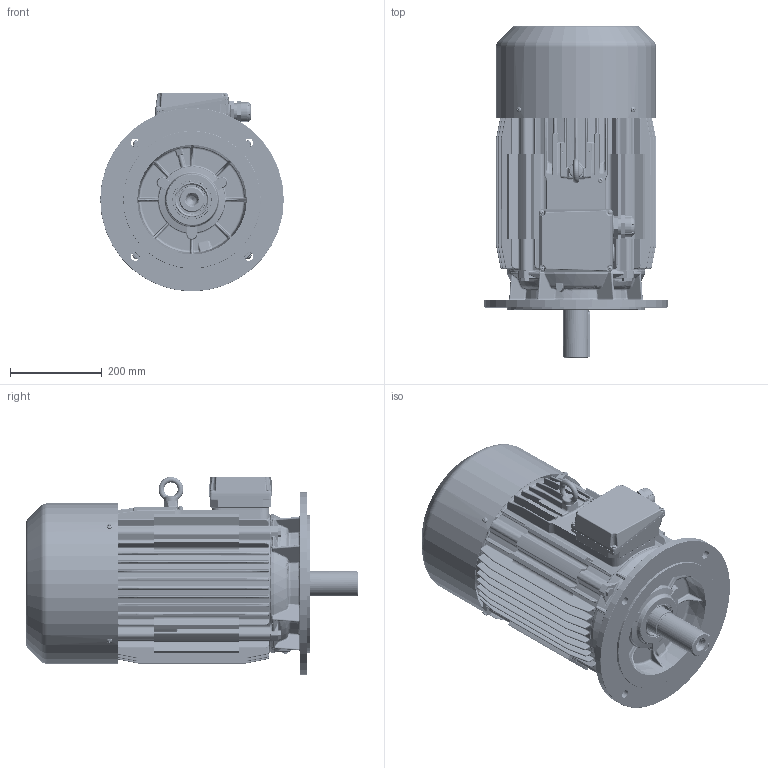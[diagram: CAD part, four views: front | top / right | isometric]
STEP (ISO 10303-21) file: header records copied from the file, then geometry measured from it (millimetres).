
FILE_DESCRIPTION(/* description */ ('Unknown'),/* implementation_level */ '2;1');
FILE_NAME(/* name */ 'S-218-01-2021',/* time_stamp */ '2021-07-15T09:29:33+02:00',/* author */ ('Unknown'),/* organization */ ('Unknown'),/* preprocessor_version */ 'ST-DEVELOPER v16.7',/* originating_system */ 'DEX',/* authorisation */ $);
FILE_SCHEMA (('AUTOMOTIVE_DESIGN {1 0 10303 214 3 1 1}'));
Products named in the file (37): S-218-01-2021; waｳ do s-217; Bearing_DIN_625_1_1989_6312_v12.00; Bearing_DIN_625_1_1989_6311_v12.00; kad³ub_zest do s-218; kad_obr do s-218_oa_0; Œruby z uchem 82472_M12; PLg-79-12_1; PLg-69-52_10; AB 16x10x100; Screw_DIN_EN_24017_M12x40_v12.00; zestawienie skrzynki 160,180 1xM40 + zaslepka; RDg-59-12; Screw_DIN_EN_ISO_7045_M6x16_H_v12.00; M6; Washer_DIN_EN_ISO_7092_2000_6.0_v12.00; Washer_DIN_127_B_6_v14.00; Screw_DIN_EN_ISO_7045_M6x14_H_v12.00; QDg-53-05_1 z uszczelk¹; QDg-53-05_1; SDg-53-03_2 Sg 160-180; Screw_DIN_EN_ISO_7045_M5x20_H_v12.00; D³awik M40; Uszczelka M40; Nakrêtka M40; SDh-19-56_6; QDg-53-29_1; A0 60x85x10; Screw_DIN_EN_ISO_7045_M6x10_H_v12.00; PVg-69-06_16; SNG-49-38; RVg-69-243_2
Assembly tree (49 placements, depth 4):
  S-218-01-2021
    waｳ do s-217
    Bearing_DIN_625_1_1989_6312_v12.00
    Bearing_DIN_625_1_1989_6311_v12.00
    kad³ub_zest do s-218
      kad_obr do s-218_oa_0
    Œruby z uchem 82472_M12
    PLg-79-12_1
    PLg-69-52_10
    AB 16x10x100
    Screw_DIN_EN_24017_M12x40_v12.00  x4
    zestawienie skrzynki 160,180 1xM40 + zaslepka
      RDg-59-12
      Screw_DIN_EN_ISO_7045_M6x16_H_v12.00  x3
      M6
        Washer_DIN_EN_ISO_7092_2000_6.0_v12.00  x2
        Washer_DIN_127_B_6_v14.00
        Screw_DIN_EN_ISO_7045_M6x14_H_v12.00
      QDg-53-05_1 z uszczelk¹
        QDg-53-05_1
        SDg-53-03_2 Sg 160-180
      Screw_DIN_EN_ISO_7045_M5x20_H_v12.00  x4
      D³awik M40
        Uszczelka M40
        D³awik M40
        Nakrêtka M40
      SDh-19-56_6
      QDg-53-29_1
    A0 60x85x10
    Screw_DIN_EN_ISO_7045_M6x10_H_v12.00  x4
    PVg-69-06_16
    M6
      Washer_DIN_EN_ISO_7092_2000_6.0_v12.00  x2
      Washer_DIN_127_B_6_v14.00
      Screw_DIN_EN_ISO_7045_M6x14_H_v12.00
    SNG-49-38
    RVg-69-243_2
Bounding box: 400 x 723 x 433.41 mm (x, y, z)
Volume: 12885767.4 mm3; surface area: 3224942.5 mm2
Topology: 63 solids, 81 shells, 9282 faces, 24352 edges, 15117 vertices
Faces by surface type: cylinder 3366, plane 3177, bspline 1805, torus 534, cone 260, sphere 140
Full cylindrical faces by diameter (mm): 3 x10, 4 x1, 4.2 x4, 4.917 x5, 5 x11, 5.3 x4, 5.5 x4, 6 x9, 6.4 x8, 6.5 x1, 6.647 x1, 6.8 x1, 7 x2, 8 x1, 9 x1, 9.4 x1, 9.5 x4, 9.853 x4, 10 x4, 10.2 x18, 11 x4, 12 x18, 13.5 x8, 16 x1, 16.63 x4, 17.5 x2, 19 x4, 20 x2, 21 x1, 23.5 x2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
Entity records: 412430 total; most frequent: CARTESIAN_POINT 167678, ORIENTED_EDGE 46038, DIRECTION 40576, EDGE_CURVE 23019, AXIS2_PLACEMENT_3D 15152, VERTEX_POINT 14617, FACE_BOUND 10404, EDGE_LOOP 10354
